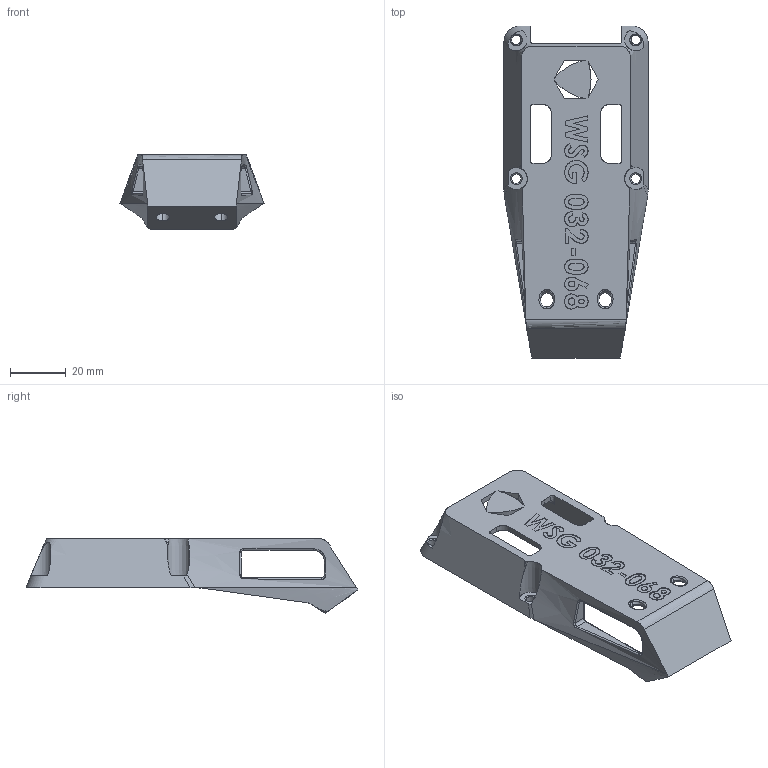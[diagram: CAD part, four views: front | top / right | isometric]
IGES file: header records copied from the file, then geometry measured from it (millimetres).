
Start section: SolidWorks IGES file using analytic representation for surfaces
Global section: file name: C:\Users\Jarod Wilson\Desktop\v1.1 gripper parts\Gripper Finger Mount for WSG 032-068.IGS; native system: SolidWorks 2022; preprocessor: SolidWorks 2022; author: Jarod Wilson; date: 230607.165517; units: millimetre
Bounding box: 52 x 119.63 x 26.8 mm (x, y, z)
Surface area: 18814.2 mm2 (no closed solid volume)
Topology: 0 solids, 0 shells, 337 faces, 5265 edges, 5263 vertices
Faces by surface type: bspline 242, revolution 95
